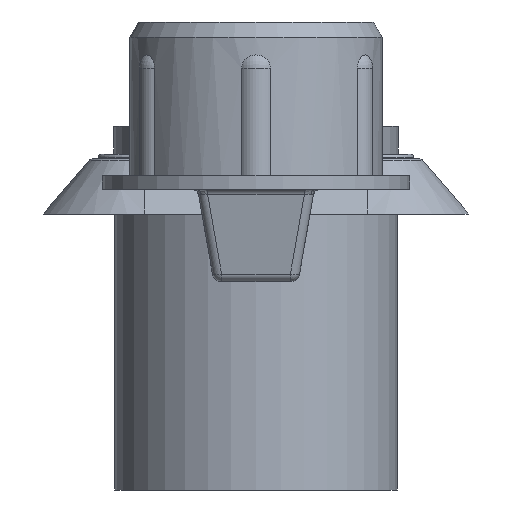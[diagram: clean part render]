
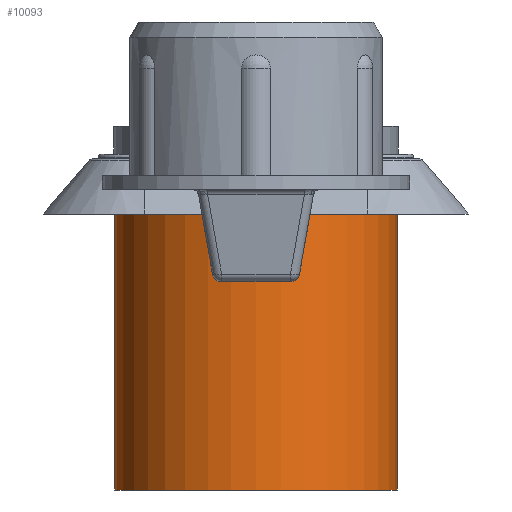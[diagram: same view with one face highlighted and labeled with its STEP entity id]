
A CAD part, front view. The second image highlights one B-rep face of the part: STEP entity #10093.
In plain terms, the highlighted cylindrical face has radius 11.684 mm (diameter 23.368 mm), a partial arc.
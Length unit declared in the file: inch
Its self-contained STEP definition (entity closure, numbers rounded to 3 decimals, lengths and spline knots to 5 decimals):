
#152 = CARTESIAN_POINT ( 'NONE',  ( -0.46, 0., 0. ) ) ;
#816 = CARTESIAN_POINT ( 'NONE',  ( -0.46, 0., -1.183 ) ) ;
#1493 = DIRECTION ( 'NONE',  ( 0., 0., 1. ) ) ;
#1582 = AXIS2_PLACEMENT_3D ( 'NONE', #11067, #1973, #10987 ) ;
#1762 = ORIENTED_EDGE ( 'NONE', *, *, #4223, .T. ) ;
#1896 = CARTESIAN_POINT ( 'NONE',  ( 0.46, 0., -0.245 ) ) ;
#1973 = DIRECTION ( 'NONE',  ( 0., 0., 1. ) ) ;
#2014 = CARTESIAN_POINT ( 'NONE',  ( 0., 0., -1.183 ) ) ;
#2514 = DIRECTION ( 'NONE',  ( 1., 0., 0. ) ) ;
#2515 = CIRCLE ( 'NONE', #1582, 0.46 ) ;
#4223 = EDGE_CURVE ( 'NONE', #9960, #13221, #9721, .T. ) ;
#4381 = DIRECTION ( 'NONE',  ( 1., 0., 0. ) ) ;
#4583 = LINE ( 'NONE', #6502, #7064 ) ;
#4739 = CARTESIAN_POINT ( 'NONE',  ( 0., 0., 0. ) ) ;
#6472 = CARTESIAN_POINT ( 'NONE',  ( -0.46, 0., -0.245 ) ) ;
#6502 = CARTESIAN_POINT ( 'NONE',  ( 0.46, 0., 0. ) ) ;
#7064 = VECTOR ( 'NONE', #11006, 39.37008 ) ;
#7178 = CYLINDRICAL_SURFACE ( 'NONE', #9456, 0.46 ) ;
#7501 = DIRECTION ( 'NONE',  ( 0., 0., 1. ) ) ;
#8073 = DIRECTION ( 'NONE',  ( 0., 0., 1. ) ) ;
#8341 = EDGE_LOOP ( 'NONE', ( #11738, #1762, #11911, #12218 ) ) ;
#8884 = EDGE_CURVE ( 'NONE', #13221, #14033, #4583, .T. ) ;
#9265 = AXIS2_PLACEMENT_3D ( 'NONE', #2014, #7501, #4381 ) ;
#9456 = AXIS2_PLACEMENT_3D ( 'NONE', #4739, #8073, #2514 ) ;
#9721 = CIRCLE ( 'NONE', #9265, 0.46 ) ;
#9960 = VERTEX_POINT ( 'NONE', #816 ) ;
#10093 = ADVANCED_FACE ( 'NONE', ( #11535 ), #7178, .T. ) ;
#10169 = EDGE_CURVE ( 'NONE', #9960, #14005, #10271, .T. ) ;
#10271 = LINE ( 'NONE', #152, #10405 ) ;
#10405 = VECTOR ( 'NONE', #1493, 39.37008 ) ;
#10987 = DIRECTION ( 'NONE',  ( 1., 0., 0. ) ) ;
#11006 = DIRECTION ( 'NONE',  ( 0., 0., 1. ) ) ;
#11067 = CARTESIAN_POINT ( 'NONE',  ( 0., 0., -0.245 ) ) ;
#11089 = CARTESIAN_POINT ( 'NONE',  ( 0.46, 0., -1.183 ) ) ;
#11535 = FACE_OUTER_BOUND ( 'NONE', #8341, .T. ) ;
#11738 = ORIENTED_EDGE ( 'NONE', *, *, #10169, .F. ) ;
#11911 = ORIENTED_EDGE ( 'NONE', *, *, #8884, .T. ) ;
#12218 = ORIENTED_EDGE ( 'NONE', *, *, #12414, .F. ) ;
#12414 = EDGE_CURVE ( 'NONE', #14005, #14033, #2515, .T. ) ;
#13221 = VERTEX_POINT ( 'NONE', #11089 ) ;
#14005 = VERTEX_POINT ( 'NONE', #6472 ) ;
#14033 = VERTEX_POINT ( 'NONE', #1896 ) ;
